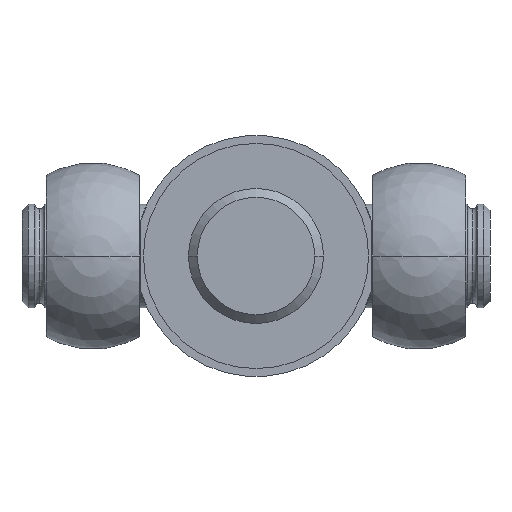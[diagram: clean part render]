
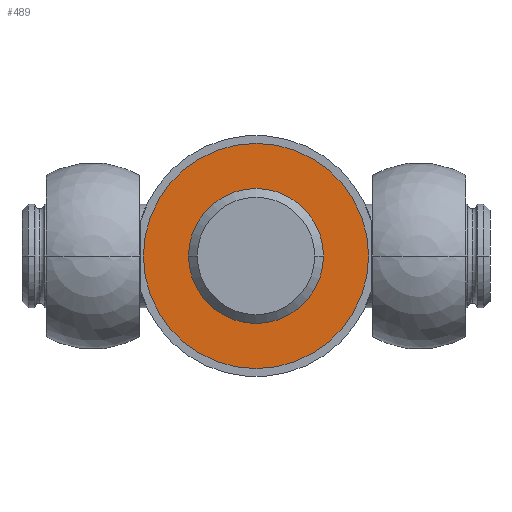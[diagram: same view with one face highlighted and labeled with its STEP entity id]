
A CAD part, front view. The second image highlights one B-rep face of the part: STEP entity #489.
In plain terms, the highlighted planar face has unit normal (0, -1, 0).
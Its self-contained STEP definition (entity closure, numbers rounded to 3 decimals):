
#483 = VERTEX_POINT( '', #1255 );
#489 = ADVANCED_FACE( '', ( #1261, #1262 ), #1263, .T. );
#559 = VERTEX_POINT( '', #1343 );
#573 = EDGE_CURVE( '', #1037, #559, #1357, .T. );
#637 = EDGE_CURVE( '', #483, #1015, #1426, .T. );
#889 = EDGE_CURVE( '', #559, #1037, #1713, .T. );
#1015 = VERTEX_POINT( '', #1855 );
#1037 = VERTEX_POINT( '', #1878 );
#1069 = EDGE_CURVE( '', #1015, #483, #1914, .T. );
#1255 = CARTESIAN_POINT( '', ( 35., 0., 0. ) );
#1261 = FACE_OUTER_BOUND( '', #2153, .T. );
#1262 = FACE_BOUND( '', #2154, .T. );
#1263 = PLANE( '', #2155 );
#1343 = CARTESIAN_POINT( '', ( -21., 0., 0. ) );
#1357 = CIRCLE( '', #2296, 21. );
#1426 = CIRCLE( '', #2389, 35. );
#1713 = CIRCLE( '', #2843, 21. );
#1855 = CARTESIAN_POINT( '', ( -35., 0., 0. ) );
#1878 = CARTESIAN_POINT( '', ( 21., 0., 0. ) );
#1914 = CIRCLE( '', #3147, 35. );
#2153 = EDGE_LOOP( '', ( #3377, #3378 ) );
#2154 = EDGE_LOOP( '', ( #3379, #3380 ) );
#2155 = AXIS2_PLACEMENT_3D( '', #3381, #3382, #3383 );
#2296 = AXIS2_PLACEMENT_3D( '', #3506, #3507, #3508 );
#2389 = AXIS2_PLACEMENT_3D( '', #3589, #3590, #3591 );
#2843 = AXIS2_PLACEMENT_3D( '', #3974, #3975, #3976 );
#3147 = AXIS2_PLACEMENT_3D( '', #4246, #4247, #4248 );
#3377 = ORIENTED_EDGE( '', *, *, #637, .F. );
#3378 = ORIENTED_EDGE( '', *, *, #1069, .F. );
#3379 = ORIENTED_EDGE( '', *, *, #573, .T. );
#3380 = ORIENTED_EDGE( '', *, *, #889, .T. );
#3381 = CARTESIAN_POINT( '', ( 28., 0., 0. ) );
#3382 = DIRECTION( '', ( 0., -1., 0. ) );
#3383 = DIRECTION( '', ( -1., 0., 0. ) );
#3506 = CARTESIAN_POINT( '', ( 0., 0., 0. ) );
#3507 = DIRECTION( '', ( 0., 1., 0. ) );
#3508 = DIRECTION( '', ( 1., 0., 0. ) );
#3589 = CARTESIAN_POINT( '', ( 0., 0., 0. ) );
#3590 = DIRECTION( '', ( 0., 1., 0. ) );
#3591 = DIRECTION( '', ( 1., 0., 0. ) );
#3974 = CARTESIAN_POINT( '', ( 0., 0., 0. ) );
#3975 = DIRECTION( '', ( 0., 1., 0. ) );
#3976 = DIRECTION( '', ( 1., 0., 0. ) );
#4246 = CARTESIAN_POINT( '', ( 0., 0., 0. ) );
#4247 = DIRECTION( '', ( 0., 1., 0. ) );
#4248 = DIRECTION( '', ( 1., 0., 0. ) );
